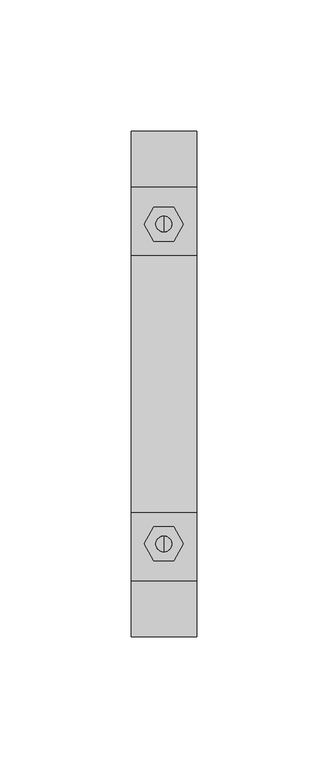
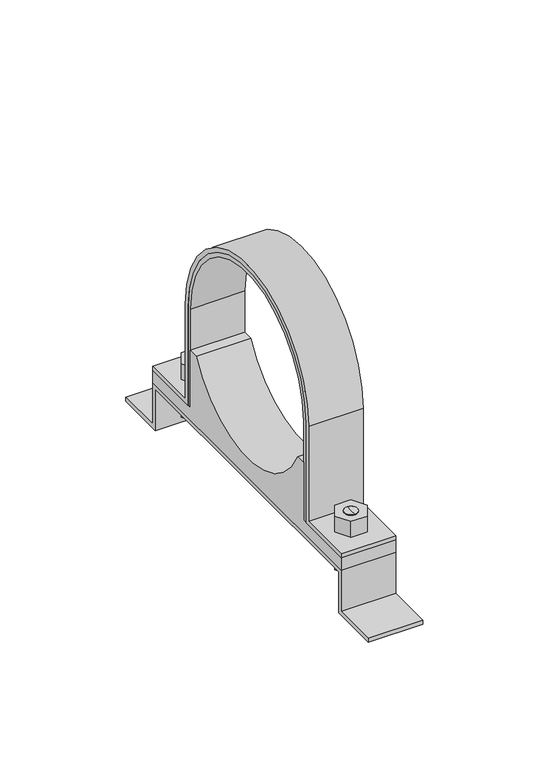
"""IFC4 building model written with IfcOpenShell, lengths in millimetres: valve geometry, Superfix DG3 Clamp (based on pipe) : Superfix DG3 Clamp (based on pipe)."""

from ifc_helpers import new_model, si_unit, point, frame, frame_2d, origin, place, context, project, spatial, polyline, circle_curve, trimmed, segment, composite_curve, outline, extrude, source, transform, mapped, element, save
from ifc_brep_helpers import plane_surface, cylinder_surface, advanced_brep


def valve_227da280(model_context):
    return source(origin(), model_context, "Body", "SolidModel", [
        advanced_brep(
        [(0.0, 64.0, 7.0), (0.0, 58.0, 7.0), (0.0, 58.0, 20.0), (0.0, 64.0, 20.0), (0.0, 61.0, 7.0)],
        [
            (0, 1, circle_curve(frame((0.0, 61.0, 7.0), z_axis=(0.0, 0.0, 1.0), x_axis=(0.0, 1.0, 0.0)), 3.0)),
            (1, 2),
            (2, 3, circle_curve(frame((0.0, 61.0, 20.0), z_axis=(0.0, 0.0, -1.0), x_axis=(0.0, 1.0, 0.0)), 3.0)),
            (3, 0),
            (1, 0, circle_curve(frame((0.0, 61.0, 7.0), z_axis=(0.0, 0.0, 1.0), x_axis=(0.0, 1.0, 0.0)), 3.0)),
            (3, 2, circle_curve(frame((0.0, 61.0, 20.0), z_axis=(0.0, 0.0, -1.0), x_axis=(0.0, 1.0, 0.0)), 3.0)),
            (0, 4),
            (4, 1),
        ],
        [
            cylinder_surface(frame((0.0, 61.0, 74.2806094), z_axis=(0.0, 0.0, 1.0), x_axis=(0.0, 1.0, 0.0)), 3.0),
            plane_surface(frame((0.0, 61.0, 7.0), z_axis=(0.0, 0.0, -1.0), x_axis=(0.0, 1.0, 0.0))),
            plane_surface(frame((13.75, -75.0, 20.0), z_axis=(0.0, 0.0, 1.0), x_axis=(-1.0, 0.0, 0.0))),
        ],
        [
            (0, [[1, 2, 3, 4]]),
            (0, [[5, -4, 6, -2]]),
            (1, [[-1, 7, 8]]),
            (1, [[-5, -8, -7]]),
            (2, [[-3, -6]]),
        ],
    ),
        advanced_brep(
        [(0.0, 58.0, 38.0), (0.0, 64.0, 38.0), (0.0, 64.0, 28.0), (0.0, 58.0, 28.0), (0.0, 61.0, 38.0)],
        [
            (0, 1, circle_curve(frame((0.0, 61.0, 38.0), z_axis=(0.0, 0.0, -1.0), x_axis=(0.0, 1.0, 0.0)), 3.0)),
            (1, 2),
            (2, 3, circle_curve(frame((0.0, 61.0, 28.0), z_axis=(0.0, 0.0, 1.0), x_axis=(0.0, 1.0, 0.0)), 3.0)),
            (3, 0),
            (1, 0, circle_curve(frame((0.0, 61.0, 38.0), z_axis=(0.0, 0.0, -1.0), x_axis=(0.0, 1.0, 0.0)), 3.0)),
            (3, 2, circle_curve(frame((0.0, 61.0, 28.0), z_axis=(0.0, 0.0, 1.0), x_axis=(0.0, 1.0, 0.0)), 3.0)),
            (0, 4),
            (4, 1),
        ],
        [
            cylinder_surface(frame((0.0, 61.0, 74.2806094), z_axis=(0.0, 0.0, 1.0), x_axis=(0.0, 1.0, 0.0)), 3.0),
            plane_surface(frame((0.0, 61.0, 38.0), z_axis=(0.0, 0.0, 1.0), x_axis=(0.0, 1.0, 0.0))),
            plane_surface(frame((13.75, 75.0, 28.0), z_axis=(0.0, 0.0, -1.0), x_axis=(-1.0, 0.0, 0.0))),
        ],
        [
            (0, [[1, 2, 3, 4]]),
            (0, [[5, -4, 6, -2]]),
            (1, [[-1, 7, 8]]),
            (1, [[-5, -8, -7]]),
            (2, [[-3, -6]]),
        ],
    ),
        advanced_brep(
        [(0.0, -64.0, 38.0), (0.0, -58.0, 38.0), (0.0, -58.0, 28.0), (0.0, -64.0, 28.0), (0.0, -61.0, 38.0)],
        [
            (0, 1, circle_curve(frame((0.0, -61.0, 38.0), z_axis=(0.0, 0.0, -1.0), x_axis=(0.0, -1.0, 0.0)), 3.0)),
            (1, 2),
            (2, 3, circle_curve(frame((0.0, -61.0, 28.0), z_axis=(0.0, 0.0, 1.0), x_axis=(0.0, -1.0, 0.0)), 3.0)),
            (3, 0),
            (1, 0, circle_curve(frame((0.0, -61.0, 38.0), z_axis=(0.0, 0.0, -1.0), x_axis=(0.0, -1.0, 0.0)), 3.0)),
            (3, 2, circle_curve(frame((0.0, -61.0, 28.0), z_axis=(0.0, 0.0, 1.0), x_axis=(0.0, -1.0, 0.0)), 3.0)),
            (0, 4),
            (4, 1),
        ],
        [
            cylinder_surface(frame((0.0, -61.0, 74.2806094), z_axis=(0.0, 0.0, -1.0), x_axis=(0.0, -1.0, 0.0)), 3.0),
            plane_surface(frame((0.0, -61.0, 38.0), z_axis=(0.0, 0.0, 1.0), x_axis=(0.0, -1.0, 0.0))),
            plane_surface(frame((13.75, 75.0, 28.0), z_axis=(0.0, 0.0, -1.0), x_axis=(-1.0, 0.0, 0.0))),
        ],
        [
            (0, [[1, 2, 3, 4]]),
            (0, [[5, -4, 6, -2]]),
            (1, [[-1, 7, 8]]),
            (1, [[-5, -8, -7]]),
            (2, [[-3, -6]]),
        ],
    ),
        advanced_brep(
        [(0.0, -58.0, 7.0), (0.0, -64.0, 7.0), (0.0, -64.0, 20.0), (0.0, -58.0, 20.0), (0.0, -61.0, 7.0)],
        [
            (0, 1, circle_curve(frame((0.0, -61.0, 7.0), z_axis=(0.0, 0.0, 1.0), x_axis=(0.0, -1.0, 0.0)), 3.0)),
            (1, 2),
            (2, 3, circle_curve(frame((0.0, -61.0, 20.0), z_axis=(0.0, 0.0, -1.0), x_axis=(0.0, -1.0, 0.0)), 3.0)),
            (3, 0),
            (1, 0, circle_curve(frame((0.0, -61.0, 7.0), z_axis=(0.0, 0.0, 1.0), x_axis=(0.0, -1.0, 0.0)), 3.0)),
            (3, 2, circle_curve(frame((0.0, -61.0, 20.0), z_axis=(0.0, 0.0, -1.0), x_axis=(0.0, -1.0, 0.0)), 3.0)),
            (0, 4),
            (4, 1),
        ],
        [
            cylinder_surface(frame((0.0, -61.0, 74.2806094), z_axis=(0.0, 0.0, -1.0), x_axis=(0.0, -1.0, 0.0)), 3.0),
            plane_surface(frame((0.0, -61.0, 7.0), z_axis=(0.0, 0.0, -1.0), x_axis=(0.0, -1.0, 0.0))),
            plane_surface(frame((13.75, -75.0, 20.0), z_axis=(0.0, 0.0, 1.0), x_axis=(-1.0, 0.0, 0.0))),
        ],
        [
            (0, [[1, 2, 3, 4]]),
            (0, [[5, -4, 6, -2]]),
            (1, [[-1, 7, 8]]),
            (1, [[-5, -8, -7]]),
            (2, [[-3, -6]]),
        ],
    ),
        extrude(outline(composite_curve([segment(trimmed(circle_curve(frame_2d((0.0, 76.0)), 47.0), [point((47.0, 76.0))], [point((-47.0, 76.0))], True, "CARTESIAN"), True, "CONTINUOUS"), segment(polyline([(-47.0, 76.0), (-47.0, 28.0), (-75.0, 28.0), (-75.0, 30.0), (-49.0, 30.0), (-49.0, 76.0)]), True, "CONTINUOUS"), segment(trimmed(circle_curve(frame_2d((0.0, 76.0)), 49.0), [point((-49.0, 76.0))], [point((49.0, 76.0))], False, "CARTESIAN"), True, "CONTINUOUS"), segment(polyline([(49.0, 76.0), (49.0, 30.0), (75.0, 30.0), (75.0, 28.0), (47.0, 28.0), (47.0, 76.0)]), True, "CONTINUOUS")], self_intersect=False)), frame((-12.5, 0.0, 0.0), z_axis=(1.0, 0.0, 0.0), x_axis=(0.0, 1.0, 0.0)), (0.0, 0.0, 1.0), 25.0),
        extrude(outline(polyline([(7.5055535, -61.0), (3.7527767, -67.5), (-3.7527767, -67.5), (-7.5055535, -61.0), (-3.7527767, -54.5), (3.7527767, -54.5), (7.5055535, -61.0)]), holes=[composite_curve([segment(trimmed(circle_curve(frame_2d((0.0, -61.0)), 3.0), [point((3.0, -61.0))], [point((-3.0, -61.0))], True, "CARTESIAN"), True, "CONTINUOUS"), segment(trimmed(circle_curve(frame_2d((0.0, -61.0)), 3.0), [point((-3.0, -61.0))], [point((3.0, -61.0))], True, "CARTESIAN"), True, "CONTINUOUS")], self_intersect=False)]), frame((0.0, 0.0, 30.0), z_axis=(0.0, 0.0, 1.0), x_axis=(1.0, 0.0, 0.0)), (0.0, 0.0, 1.0), 8.0),
        extrude(outline(polyline([(7.5055535, 61.0), (3.7527767, 54.5), (-3.7527767, 54.5), (-7.5055535, 61.0), (-3.7527767, 67.5), (3.7527767, 67.5), (7.5055535, 61.0)]), holes=[composite_curve([segment(trimmed(circle_curve(frame_2d((0.0, 61.0)), 3.0), [point((3.0, 61.0))], [point((-3.0, 61.0))], True, "CARTESIAN"), True, "CONTINUOUS"), segment(trimmed(circle_curve(frame_2d((0.0, 61.0)), 3.0), [point((-3.0, 61.0))], [point((3.0, 61.0))], True, "CARTESIAN"), True, "CONTINUOUS")], self_intersect=False)]), frame((0.0, 0.0, 30.0), z_axis=(0.0, 0.0, 1.0), x_axis=(1.0, 0.0, 0.0)), (0.0, 0.0, 1.0), 8.0),
        extrude(outline(polyline([(7.5055535, -61.0), (3.7527767, -67.5), (-3.7527767, -67.5), (-7.5055535, -61.0), (-3.7527767, -54.5), (3.7527767, -54.5), (7.5055535, -61.0)]), holes=[composite_curve([segment(trimmed(circle_curve(frame_2d((0.0, -61.0)), 3.0), [point((3.0, -61.0))], [point((-3.0, -61.0))], True, "CARTESIAN"), True, "CONTINUOUS"), segment(trimmed(circle_curve(frame_2d((0.0, -61.0)), 3.0), [point((-3.0, -61.0))], [point((3.0, -61.0))], True, "CARTESIAN"), True, "CONTINUOUS")], self_intersect=False)]), frame((0.0, 0.0, 12.0), z_axis=(0.0, 0.0, 1.0), x_axis=(1.0, 0.0, 0.0)), (0.0, 0.0, 1.0), 8.0),
        extrude(outline(polyline([(7.5055535, 61.0), (3.7527767, 54.5), (-3.7527767, 54.5), (-7.5055535, 61.0), (-3.7527767, 67.5), (3.7527767, 67.5), (7.5055535, 61.0)]), holes=[composite_curve([segment(trimmed(circle_curve(frame_2d((0.0, 61.0)), 3.0), [point((3.0, 61.0))], [point((-3.0, 61.0))], True, "CARTESIAN"), True, "CONTINUOUS"), segment(trimmed(circle_curve(frame_2d((0.0, 61.0)), 3.0), [point((-3.0, 61.0))], [point((3.0, 61.0))], True, "CARTESIAN"), True, "CONTINUOUS")], self_intersect=False)]), frame((0.0, 0.0, 12.0), z_axis=(0.0, 0.0, 1.0), x_axis=(1.0, 0.0, 0.0)), (0.0, 0.0, 1.0), 8.0),
        extrude(outline(composite_curve([segment(polyline([(-75.0, 22.0), (-75.0, 28.0), (-45.0, 28.0), (-45.0, 56.0), (-40.3112887, 56.0)]), True, "CONTINUOUS"), segment(trimmed(circle_curve(frame_2d((0.0, 76.0)), 45.0), [point((-40.3112887, 56.0))], [point((40.3112887, 56.0))], True, "CARTESIAN"), True, "CONTINUOUS"), segment(polyline([(40.3112887, 56.0), (45.0, 56.0), (45.0, 28.0), (75.0, 28.0), (75.0, 22.0), (-75.0, 22.0)]), True, "CONTINUOUS")], self_intersect=False)), frame((-12.5, 0.0, 0.0), z_axis=(1.0, 0.0, 0.0), x_axis=(0.0, 1.0, 0.0)), (0.0, 0.0, 1.0), 25.0),
        extrude(outline(polyline([(-96.5, 2.0), (-75.0, 2.0), (-75.0, 22.0), (0.0, 22.0), (75.0, 22.0), (75.0, 2.0), (96.5, 2.0), (96.5, 0.0), (73.0, 0.0), (73.0, 20.0), (0.0, 20.0), (-73.0, 20.0), (-73.0, 0.0), (-96.5, 0.0), (-96.5, 2.0)])), frame((-12.5, 0.0, 0.0), z_axis=(1.0, 0.0, 0.0), x_axis=(0.0, 1.0, 0.0)), (0.0, 0.0, 1.0), 25.0),
        extrude(outline(composite_curve([segment(trimmed(circle_curve(frame_2d((0.0, 76.0)), 45.0), [point((45.0, 76.0))], [point((-45.0, 76.0))], True, "CARTESIAN"), True, "CONTINUOUS"), segment(polyline([(-45.0, 76.0), (-45.0, 28.0), (-47.0, 28.0), (-47.0, 76.0)]), True, "CONTINUOUS"), segment(trimmed(circle_curve(frame_2d((0.0, 76.0)), 47.0), [point((-47.0, 76.0))], [point((47.0, 76.0))], False, "CARTESIAN"), True, "CONTINUOUS"), segment(polyline([(47.0, 76.0), (47.0, 28.0), (45.0, 28.0), (45.0, 76.0)]), True, "CONTINUOUS")], self_intersect=False)), frame((-12.5, 0.0, 0.0), z_axis=(1.0, 0.0, 0.0), x_axis=(0.0, 1.0, 0.0)), (0.0, 0.0, 1.0), 25.0),
    ])


if __name__ == "__main__":
    model = new_model("IFC4")
    model_context = context("Model", 3, world=origin())
    ifc_project = project(units=[si_unit("LENGTHUNIT", "METRE", prefix="MILLI")], contexts=[model_context])
    site = spatial("IfcSite", under=ifc_project)
    building = spatial("IfcBuilding", under=site)
    placement = place(None, origin())
    valve_shape = valve_227da280(model_context)
    element("IfcValve", 1, ObjectType="Superfix DG3 Clamp (based on pipe) : Superfix DG3 Clamp (based on pipe)", at=placement, inside=building, context=model_context, shape_type="MappedRepresentation", body=[
        mapped(valve_shape, transform((0.0, 0.0, 0.0), x_axis=(1.0, 0.0, 0.0), y_axis=(0.0, 1.0, 0.0), z_axis=(0.0, 0.0, 1.0))),
    ])
    save(model, "model.ifc")
